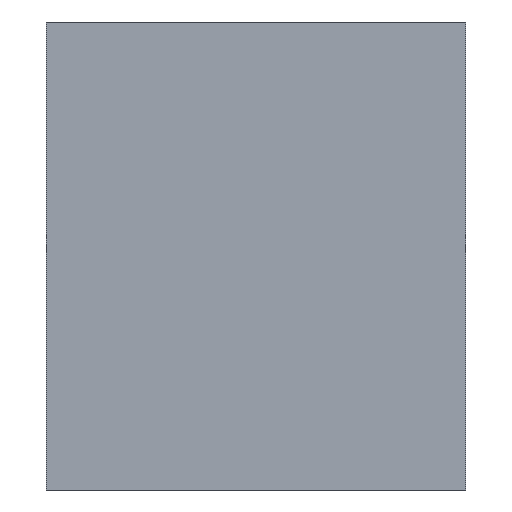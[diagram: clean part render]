
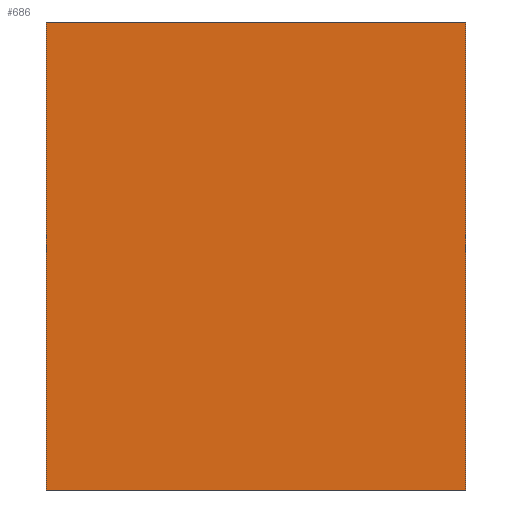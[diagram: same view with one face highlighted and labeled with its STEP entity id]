
A CAD part, left-side view. The second image highlights one B-rep face of the part: STEP entity #686.
In plain terms, the highlighted planar face has unit normal (-1, 0, 0).
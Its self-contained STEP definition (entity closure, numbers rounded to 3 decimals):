
#129=ORIENTED_EDGE('',*,*,#294,.T.);
#130=ORIENTED_EDGE('',*,*,#277,.F.);
#131=ORIENTED_EDGE('',*,*,#300,.T.);
#132=ORIENTED_EDGE('',*,*,#269,.T.);
#269=EDGE_CURVE('',#360,#359,#426,.T.);
#277=EDGE_CURVE('',#367,#368,#434,.T.);
#294=EDGE_CURVE('',#359,#368,#446,.T.);
#300=EDGE_CURVE('',#367,#360,#452,.T.);
#359=VERTEX_POINT('',#1036);
#360=VERTEX_POINT('',#1038);
#367=VERTEX_POINT('',#1053);
#368=VERTEX_POINT('',#1055);
#426=LINE('',#1037,#506);
#434=LINE('',#1054,#514);
#446=LINE('',#1083,#526);
#452=LINE('',#1092,#532);
#506=VECTOR('',#829,1000.);
#514=VECTOR('',#839,1000.);
#526=VECTOR('',#865,1000.);
#532=VECTOR('',#875,1000.);
#562=EDGE_LOOP('',(#129,#130,#131,#132));
#612=FACE_BOUND('',#562,.T.);
#658=PLANE('',#742);
#686=ADVANCED_FACE('',(#612),#658,.F.);
#742=AXIS2_PLACEMENT_3D('',#1091,#873,#874);
#829=DIRECTION('',(0.,0.,-1.));
#839=DIRECTION('',(0.,0.,-1.));
#865=DIRECTION('',(0.,-1.,0.));
#873=DIRECTION('',(1.,0.,0.));
#874=DIRECTION('',(0.,0.,-1.));
#875=DIRECTION('',(0.,1.,0.));
#1036=CARTESIAN_POINT('',(-19.5,30.,0.));
#1037=CARTESIAN_POINT('',(-19.5,30.,65.));
#1038=CARTESIAN_POINT('',(-19.5,30.,67.));
#1053=CARTESIAN_POINT('',(-19.5,-30.,67.));
#1054=CARTESIAN_POINT('',(-19.5,-30.,65.));
#1055=CARTESIAN_POINT('',(-19.5,-30.,0.));
#1083=CARTESIAN_POINT('',(-19.5,30.,0.));
#1091=CARTESIAN_POINT('',(-19.5,30.,65.));
#1092=CARTESIAN_POINT('',(-19.5,-30.,67.));
